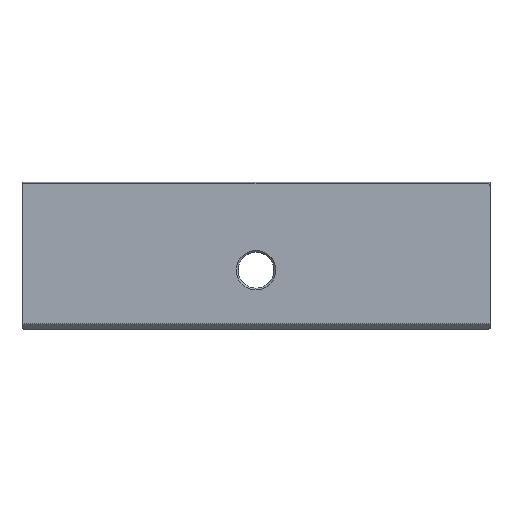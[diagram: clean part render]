
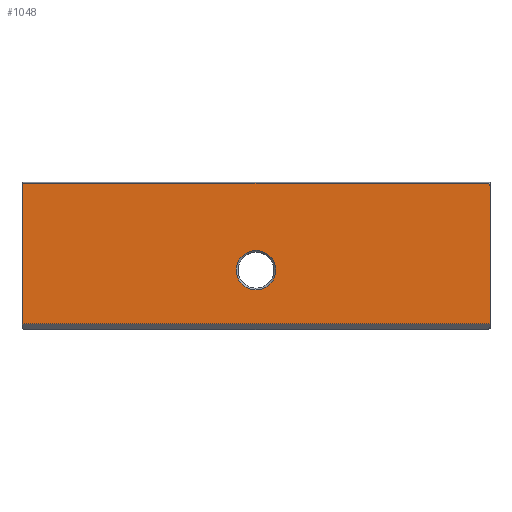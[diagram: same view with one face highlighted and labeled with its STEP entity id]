
A CAD part, top view. The second image highlights one B-rep face of the part: STEP entity #1048.
In plain terms, the highlighted planar face has unit normal (0, 0, 1).
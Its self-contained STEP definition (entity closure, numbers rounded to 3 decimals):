
#27 = VERTEX_POINT ( 'NONE', #1016 ) ;
#64 = AXIS2_PLACEMENT_3D ( 'NONE', #771, #79, #432 ) ;
#67 = CARTESIAN_POINT ( 'NONE',  ( 0., 0., 5. ) ) ;
#79 = DIRECTION ( 'NONE',  ( 0., 0., 1. ) ) ;
#109 = ORIENTED_EDGE ( 'NONE', *, *, #980, .T. ) ;
#118 = VERTEX_POINT ( 'NONE', #454 ) ;
#154 = EDGE_CURVE ( 'NONE', #118, #27, #470, .T. ) ;
#194 = DIRECTION ( 'NONE',  ( 0., 0., 1. ) ) ;
#213 = CARTESIAN_POINT ( 'NONE',  ( 80., 28.7, 5. ) ) ;
#230 = DIRECTION ( 'NONE',  ( 0., 0., -1. ) ) ;
#232 = VERTEX_POINT ( 'NONE', #1006 ) ;
#244 = ORIENTED_EDGE ( 'NONE', *, *, #154, .F. ) ;
#247 = VECTOR ( 'NONE', #362, 1000. ) ;
#256 = VERTEX_POINT ( 'NONE', #965 ) ;
#263 = CARTESIAN_POINT ( 'NONE',  ( 79., 29.7, 5. ) ) ;
#265 = CARTESIAN_POINT ( 'NONE',  ( -80., -18.3, 5. ) ) ;
#337 = ORIENTED_EDGE ( 'NONE', *, *, #683, .T. ) ;
#355 = ORIENTED_EDGE ( 'NONE', *, *, #736, .T. ) ;
#362 = DIRECTION ( 'NONE',  ( 0., 1., 0. ) ) ;
#396 = LINE ( 'NONE', #1073, #1037 ) ;
#409 = AXIS2_PLACEMENT_3D ( 'NONE', #1083, #582, #837 ) ;
#432 = DIRECTION ( 'NONE',  ( 1., 0., 0. ) ) ;
#441 = AXIS2_PLACEMENT_3D ( 'NONE', #67, #230, #682 ) ;
#446 = EDGE_CURVE ( 'NONE', #232, #232, #1080, .T. ) ;
#454 = CARTESIAN_POINT ( 'NONE',  ( -80., -18.3, 5. ) ) ;
#470 = LINE ( 'NONE', #265, #946 ) ;
#476 = EDGE_LOOP ( 'NONE', ( #594 ) ) ;
#479 = PLANE ( 'NONE',  #409 ) ;
#520 = CARTESIAN_POINT ( 'NONE',  ( 80., -18.3, 5. ) ) ;
#547 = CARTESIAN_POINT ( 'NONE',  ( -79., 28.7, 5. ) ) ;
#573 = EDGE_CURVE ( 'NONE', #883, #577, #819, .T. ) ;
#577 = VERTEX_POINT ( 'NONE', #263 ) ;
#582 = DIRECTION ( 'NONE',  ( 0., 0., 1. ) ) ;
#587 = EDGE_CURVE ( 'NONE', #622, #118, #767, .T. ) ;
#594 = ORIENTED_EDGE ( 'NONE', *, *, #446, .T. ) ;
#596 = EDGE_LOOP ( 'NONE', ( #109, #337, #244, #1064, #355, #969 ) ) ;
#603 = DIRECTION ( 'NONE',  ( -1., 0., 0. ) ) ;
#620 = CARTESIAN_POINT ( 'NONE',  ( 80., -18.3, 5. ) ) ;
#622 = VERTEX_POINT ( 'NONE', #520 ) ;
#630 = DIRECTION ( 'NONE',  ( 1., 0., 0. ) ) ;
#682 = DIRECTION ( 'NONE',  ( 1., 0., 0. ) ) ;
#683 = EDGE_CURVE ( 'NONE', #256, #27, #1015, .T. ) ;
#736 = EDGE_CURVE ( 'NONE', #622, #883, #818, .T. ) ;
#767 = LINE ( 'NONE', #620, #1001 ) ;
#771 = CARTESIAN_POINT ( 'NONE',  ( 79., 28.7, 5. ) ) ;
#818 = LINE ( 'NONE', #888, #247 ) ;
#819 = CIRCLE ( 'NONE', #64, 1. ) ;
#837 = DIRECTION ( 'NONE',  ( 1., 0., 0. ) ) ;
#875 = DIRECTION ( 'NONE',  ( 0., 1., 0. ) ) ;
#883 = VERTEX_POINT ( 'NONE', #213 ) ;
#888 = CARTESIAN_POINT ( 'NONE',  ( 80., -18.3, 5. ) ) ;
#946 = VECTOR ( 'NONE', #875, 1000. ) ;
#954 = FACE_BOUND ( 'NONE', #476, .T. ) ;
#962 = AXIS2_PLACEMENT_3D ( 'NONE', #547, #194, #630 ) ;
#965 = CARTESIAN_POINT ( 'NONE',  ( -79., 29.7, 5. ) ) ;
#969 = ORIENTED_EDGE ( 'NONE', *, *, #573, .T. ) ;
#980 = EDGE_CURVE ( 'NONE', #577, #256, #396, .T. ) ;
#1001 = VECTOR ( 'NONE', #603, 1000. ) ;
#1006 = CARTESIAN_POINT ( 'NONE',  ( 6.75, 0., 5. ) ) ;
#1015 = CIRCLE ( 'NONE', #962, 1. ) ;
#1016 = CARTESIAN_POINT ( 'NONE',  ( -80., 28.7, 5. ) ) ;
#1037 = VECTOR ( 'NONE', #1085, 1000. ) ;
#1048 = ADVANCED_FACE ( 'NONE', ( #954, #1053 ), #479, .T. ) ;
#1053 = FACE_OUTER_BOUND ( 'NONE', #596, .T. ) ;
#1064 = ORIENTED_EDGE ( 'NONE', *, *, #587, .F. ) ;
#1073 = CARTESIAN_POINT ( 'NONE',  ( 80., 29.7, 5. ) ) ;
#1080 = CIRCLE ( 'NONE', #441, 6.75 ) ;
#1083 = CARTESIAN_POINT ( 'NONE',  ( 80., -18.3, 5. ) ) ;
#1085 = DIRECTION ( 'NONE',  ( -1., 0., 0. ) ) ;
